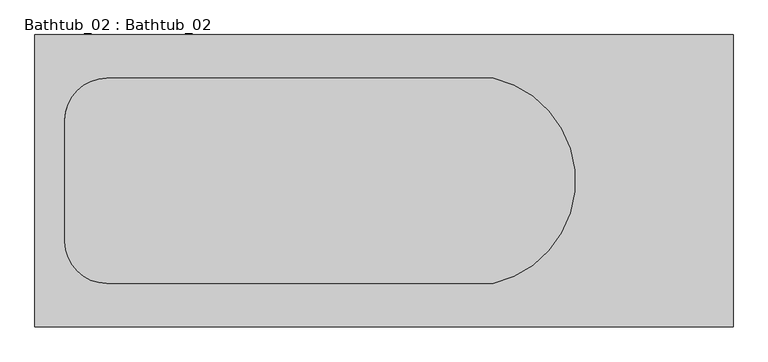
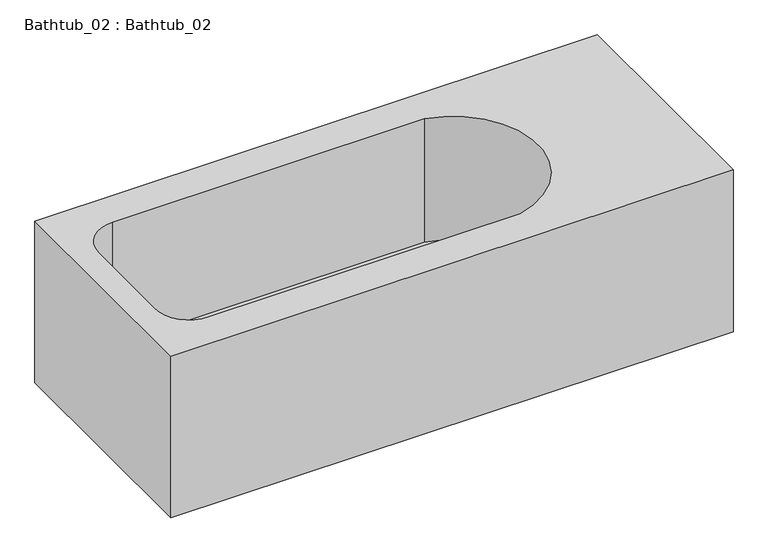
"""IFC4 building model written with IfcOpenShell, lengths in millimetres: flow terminal geometry, Bathtub_02 : Bathtub_02."""

from ifc_helpers import new_model, si_unit, frame, origin, place, context, project, spatial, polyline, circle_curve, source, transform, mapped, element, save
from ifc_brep_helpers import plane_surface, revolved_surface, advanced_brep


def bathtub_02_bathtub_02_2609c528(model_context):
    return source(origin(), model_context, "Body", "AdvancedBrep", [
        advanced_brep(
        [(3818.3098726, 12460.5978406, 8690.4670848), (1812.3010582, 12460.5978406, 8690.4670848), (1812.3010582, 11620.6382785, 8690.4670848), (3818.3098726, 11620.6382785, 8690.4670848), (2018.7524403, 12335.7370866, 8690.4670848), (3128.7524403, 12335.7370866, 8690.4670848), (3128.7524403, 11745.7370866, 8690.4670848), (2018.7524403, 11745.7370866, 8690.4670848), (1898.7524403, 11865.7370866, 8690.4670848), (1898.7524403, 12215.7370866, 8690.4670848), (3818.3098726, 12460.5978406, 8080.0), (3818.3098726, 11620.6382785, 8080.0), (1812.3010582, 11620.6382785, 8080.0), (1812.3010582, 12460.5978406, 8080.0), (2018.7524403, 12335.7370866, 8226.0418346), (3128.7524403, 12335.7370866, 8226.0418346), (1898.7524403, 12215.7370866, 8226.0418346), (1898.7524403, 11865.7370866, 8226.0418346), (2018.7524403, 11745.7370866, 8226.0418346), (3128.7524403, 11745.7370866, 8226.0418346)],
        [
            (0, 1),
            (1, 2),
            (2, 3),
            (3, 0),
            (4, 5),
            (5, 6, circle_curve(frame((3062.2891741, 12040.7370866, 8690.4670848), z_axis=(0.0, 0.0, -1.0), x_axis=(1.0, 0.0, 0.0)), 302.3943878)),
            (6, 7),
            (7, 8, circle_curve(frame((2018.7524403, 11865.7370866, 8690.4670848), z_axis=(0.0, 0.0, -1.0), x_axis=(1.0, 0.0, 0.0)), 120.0)),
            (8, 9),
            (9, 4, circle_curve(frame((2018.7524403, 12215.7370866, 8690.4670848), z_axis=(0.0, 0.0, -1.0), x_axis=(1.0, 0.0, 0.0)), 120.0)),
            (10, 11),
            (11, 12),
            (12, 13),
            (13, 10),
            (0, 10),
            (13, 1),
            (12, 2),
            (11, 3),
            (14, 15),
            (15, 5),
            (4, 14),
            (16, 14, circle_curve(frame((2018.7524403, 12215.7370866, 8226.0418346), z_axis=(0.0, 0.0, -1.0), x_axis=(1.0, 0.0, 0.0)), 120.0)),
            (9, 16),
            (17, 16),
            (8, 17),
            (18, 17, circle_curve(frame((2018.7524403, 11865.7370866, 8226.0418346), z_axis=(0.0, 0.0, -1.0), x_axis=(1.0, 0.0, 0.0)), 120.0)),
            (7, 18),
            (19, 18),
            (6, 19),
            (15, 19, circle_curve(frame((3062.2891741, 12040.7370866, 8226.0418346), z_axis=(0.0, 0.0, -1.0), x_axis=(1.0, 0.0, 0.0)), 302.3943878)),
        ],
        [
            plane_surface(frame((1818.3098726, 12460.5978406, 8690.4670848), z_axis=(0.0, 0.0, 1.0), x_axis=(-1.0, 0.0, 0.0))),
            plane_surface(frame((1818.3098726, 12460.5978406, 8080.0), z_axis=(0.0, 0.0, -1.0), x_axis=(1.0, 0.0, 0.0))),
            plane_surface(frame((3818.3098726, 12460.5978406, 8690.4670848), z_axis=(0.0, 1.0, 0.0), x_axis=(0.0, 0.0, -1.0))),
            plane_surface(frame((1812.3010582, 12460.5978406, 8690.4670848), z_axis=(-1.0, 0.0, 0.0), x_axis=(0.0, 0.0, -1.0))),
            plane_surface(frame((1812.3010582, 11620.6382785, 8690.4670848), z_axis=(0.0, -1.0, 0.0), x_axis=(0.0, 0.0, -1.0))),
            plane_surface(frame((3818.3098726, 11620.6382785, 8690.4670848), z_axis=(1.0, 0.0, 0.0), x_axis=(0.0, 0.0, -1.0))),
            plane_surface(frame((3128.7524403, 12335.7370866, 8727.7869709), z_axis=(0.0, -1.0, 0.0), x_axis=(0.0, 0.0, -1.0))),
            revolved_surface(polyline([(2138.7524402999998, 12215.7370866, 8690.4670848), (2138.7524402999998, 12215.7370866, 8226.0418346)]), (2018.7524403, 12215.7370866, 8226.0418346), (0.0, 0.0, 1.0)),
            plane_surface(frame((1898.7524403, 12215.7370866, 8727.7869709), z_axis=(1.0, 0.0, 0.0), x_axis=(0.0, 0.0, -1.0))),
            revolved_surface(polyline([(2138.7524402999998, 11865.7370866, 8690.4670848), (2138.7524402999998, 11865.7370866, 8226.0418346)]), (2018.7524403, 11865.7370866, 8226.0418346), (0.0, 0.0, 1.0)),
            plane_surface(frame((2018.7524403, 11745.7370866, 8727.7869709), z_axis=(0.0, 1.0, 0.0), x_axis=(0.0, 0.0, -1.0))),
            revolved_surface(polyline([(3364.6835619, 12040.7370866, 8690.4670848), (3364.6835619, 12040.7370866, 8226.0418346)]), (3062.2891741, 12040.7370866, 8226.0418346), (0.0, 0.0, 1.0)),
            plane_surface(frame((1928.7524403, 12335.7370866, 8226.0418346), z_axis=(0.0, 0.0, 1.0), x_axis=(1.0, 0.0, 0.0))),
        ],
        [
            (0, [[1, 2, 3, 4], [5, 6, 7, 8, 9, 10]]),
            (1, [[11, 12, 13, 14]]),
            (2, [[-1, 15, -14, 16]]),
            (3, [[-2, -16, -13, 17]]),
            (4, [[-3, -17, -12, 18]]),
            (5, [[-4, -18, -11, -15]]),
            (6, [[19, 20, -5, 21]]),
            (7, [[22, -21, -10, 23]]),
            (8, [[24, -23, -9, 25]]),
            (9, [[26, -25, -8, 27]]),
            (10, [[28, -27, -7, 29]]),
            (11, [[30, -29, -6, -20]]),
            (12, [[-19, -22, -24, -26, -28, -30]]),
        ],
    ),
    ])


if __name__ == "__main__":
    model = new_model("IFC4")
    model_context = context("Model", 3, world=origin())
    ifc_project = project(units=[si_unit("LENGTHUNIT", "METRE", prefix="MILLI")], contexts=[model_context])
    site = spatial("IfcSite", under=ifc_project)
    building = spatial("IfcBuilding", under=site)
    placement = place(None, origin())
    bathtub_02_bathtub_02_shape = bathtub_02_bathtub_02_2609c528(model_context)
    element("IfcFlowTerminal", 1, ObjectType="Bathtub_02 : Bathtub_02", at=placement, inside=building, context=model_context, shape_type="MappedRepresentation", body=[
        mapped(bathtub_02_bathtub_02_shape, transform((0.0, 0.0, 0.0), x_axis=(1.0, 0.0, 0.0), y_axis=(0.0, 1.0, 0.0), z_axis=(0.0, 0.0, 1.0))),
    ])
    save(model, "model.ifc")
